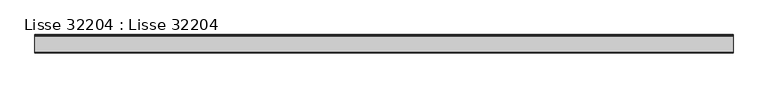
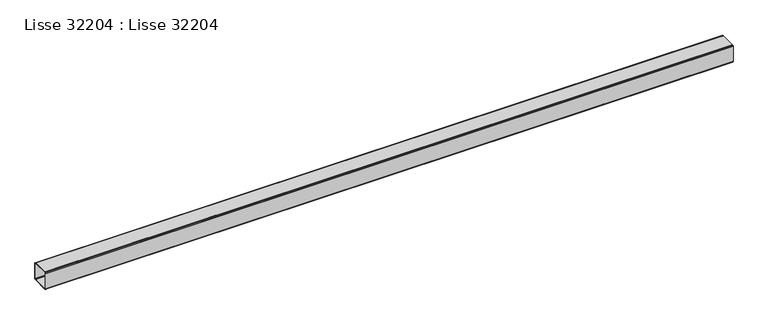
"""IFC4 building model written with IfcOpenShell, lengths in millimetres: beam geometry, Lisse 32204 : Lisse 32204."""

from ifc_helpers import new_model, si_unit, frame, origin, place, context, project, spatial, polyline, outline, extrude, source, transform, mapped, element, save


def lisse_32204_lisse_32204_c29b408f(model_context):
    return source(origin(), model_context, "Body", "SweptSolid", [
        extrude(outline(polyline([(-38554.1961524, 8316.2453687), (-38552.0, 8318.4415211), (-38549.0, 8319.2453687), (-38461.0, 8319.2453687), (-38458.0, 8318.4415211), (-38455.8038476, 8316.2453687), (-38455.0, 8313.2453687), (-38455.0, 8225.2453687), (-38455.8038476, 8222.2453687), (-38458.0, 8220.0492163), (-38461.0, 8219.2453687), (-38549.0, 8219.2453687), (-38552.0, 8220.0492163), (-38554.1961524, 8222.2453687), (-38555.0, 8225.2453687), (-38555.0, 8313.2453687), (-38554.1961524, 8316.2453687)]), holes=[polyline([(-38549.0, 8314.7094703), (-38550.4641016, 8313.2453687), (-38551.0, 8311.2453687), (-38551.0, 8227.2453687), (-38550.4641016, 8225.2453687), (-38549.0, 8223.7812671), (-38547.0, 8223.2453687), (-38463.0, 8223.2453687), (-38461.0, 8223.7812671), (-38459.5358984, 8225.2453687), (-38459.0, 8227.2453687), (-38459.0, 8311.2453687), (-38459.5358984, 8313.2453687), (-38461.0, 8314.7094703), (-38463.0, 8315.2453687), (-38547.0, 8315.2453687), (-38549.0, 8314.7094703)])]), frame((11547.4999999, 0.0, 0.0), z_axis=(1.0, 0.0, 0.0), x_axis=(0.0, 1.0, 0.0)), (0.0, 0.0, 1.0), 3792.5),
    ])


if __name__ == "__main__":
    model = new_model("IFC4")
    model_context = context("Model", 3, world=origin())
    ifc_project = project(units=[si_unit("LENGTHUNIT", "METRE", prefix="MILLI")], contexts=[model_context])
    site = spatial("IfcSite", under=ifc_project)
    building = spatial("IfcBuilding", under=site)
    placement = place(None, origin())
    lisse_32204_lisse_32204_shape = lisse_32204_lisse_32204_c29b408f(model_context)
    element("IfcBeam", 1, ObjectType="Lisse 32204 : Lisse 32204", at=placement, inside=building, context=model_context, shape_type="MappedRepresentation", body=[
        mapped(lisse_32204_lisse_32204_shape, transform((0.0, 0.0, 0.0), x_axis=(1.0, 0.0, 0.0), y_axis=(0.0, 1.0, 0.0), z_axis=(0.0, 0.0, 1.0))),
    ])
    save(model, "model.ifc")
